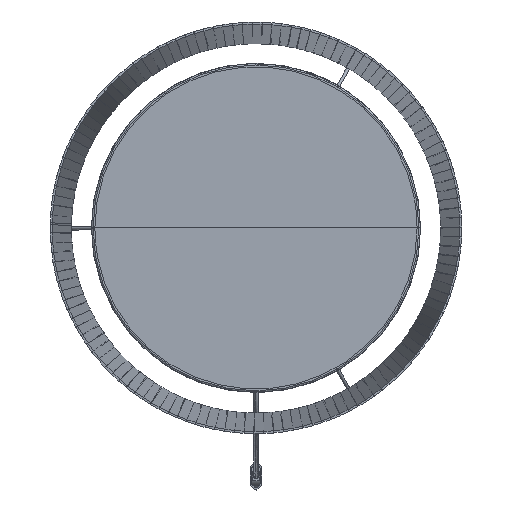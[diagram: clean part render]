
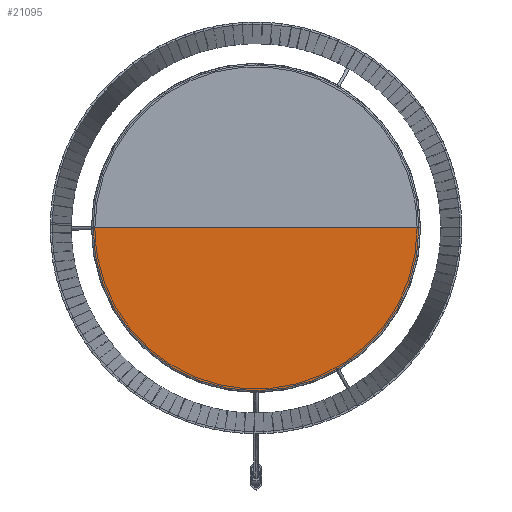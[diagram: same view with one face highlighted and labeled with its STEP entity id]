
A CAD part, top view. The second image highlights one B-rep face of the part: STEP entity #21095.
In plain terms, the highlighted planar face has unit normal (0, 0, 1) as drawn and (0, 0, -1) by its records, which use the part's own axes.
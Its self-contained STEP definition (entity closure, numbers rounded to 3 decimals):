
#477=CIRCLE('',#22621,198.182);
#3074=LINE('',#37155,#5646);
#5646=VECTOR('',#27948,304.8);
#6876=PLANE('',#22626);
#8118=FACE_OUTER_BOUND('',#9379,.T.);
#9379=EDGE_LOOP('',(#19772,#19773));
#11353=VERTEX_POINT('',#37020);
#11354=VERTEX_POINT('',#37021);
#14167=EDGE_CURVE('',#11354,#11353,#477,.T.);
#14170=EDGE_CURVE('',#11353,#11354,#3074,.T.);
#19772=ORIENTED_EDGE('',*,*,#14170,.T.);
#19773=ORIENTED_EDGE('',*,*,#14167,.T.);
#21095=ADVANCED_FACE('',(#8118),#6876,.T.);
#22621=AXIS2_PLACEMENT_3D('',#37149,#27937,#27938);
#22626=AXIS2_PLACEMENT_3D('',#37156,#27949,#27950);
#27937=DIRECTION('center_axis',(0.,0.,-1.));
#27938=DIRECTION('ref_axis',(-1.,0.,0.));
#27948=DIRECTION('',(-1.,0.,0.));
#27949=DIRECTION('center_axis',(0.,0.,-1.));
#27950=DIRECTION('ref_axis',(-1.,0.,0.));
#37020=CARTESIAN_POINT('',(198.182,0.,27.771));
#37021=CARTESIAN_POINT('',(-198.182,0.,27.771));
#37149=CARTESIAN_POINT('Origin',(0.,0.,27.771));
#37155=CARTESIAN_POINT('',(198.182,0.,27.771));
#37156=CARTESIAN_POINT('Origin',(0.,0.,27.771));
